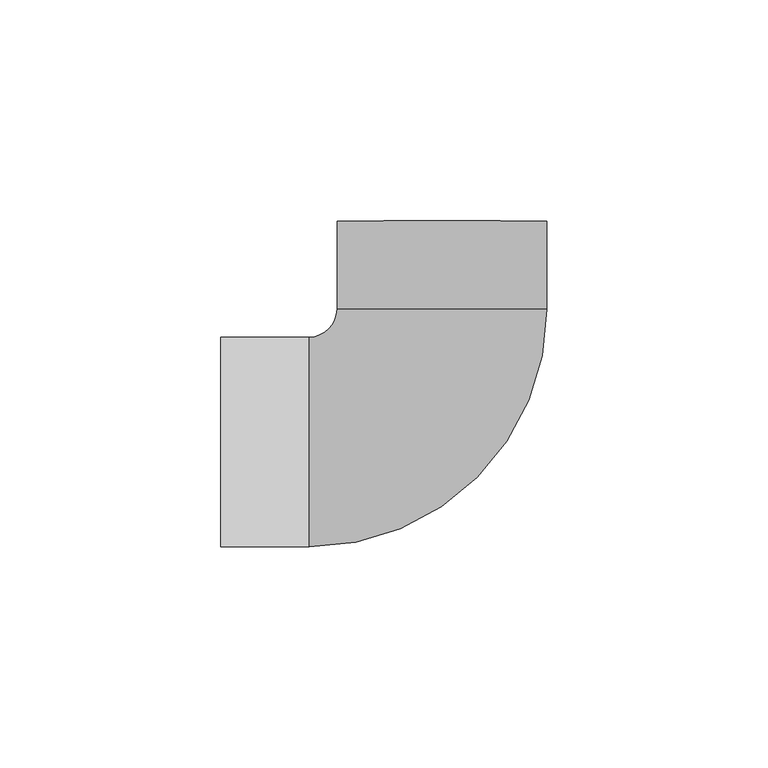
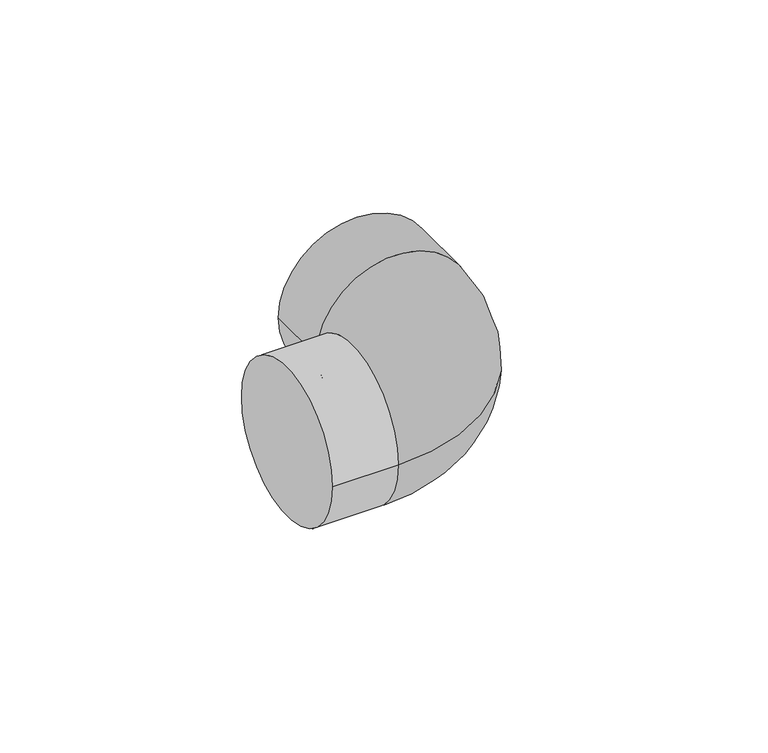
"""IFC4 building model written with IfcOpenShell, lengths in millimetres: pipe fitting geometry, 01101002 : Coudes à 90º."""

from ifc_helpers import new_model, si_unit, point, frame, origin, place, context, project, spatial, circle_curve, ellipse_curve, trimmed, source, transform, mapped, element, save
from ifc_brep_helpers import plane_surface, cylinder_surface, revolved_surface, advanced_brep


def pipe_fitting_551b26ce(model_context):
    return source(origin(), model_context, "Body", "AdvancedBrep", [
        advanced_brep(
        [(-30.0, -23.75, 0.0), (23.75, 30.0, 0.0), (-23.75, 30.0, 0.0), (-30.0, 23.75, 0.0), (-23.75, 50.0, 0.0), (23.75, 50.0, 0.0), (-50.0, 23.75, 0.0), (-50.0, -23.75, 0.0)],
        [
            (0, 1, circle_curve(frame((-30.0, 30.0, 0.0), z_axis=(0.0, 0.0, 1.0), x_axis=(1.0, 0.0, 0.0)), 53.75)),
            (1, 2, circle_curve(frame((0.0, 30.0, 0.0), z_axis=(0.0, -1.0, 0.0), x_axis=(1.0, 0.0, 0.0)), 23.75)),
            (2, 3, circle_curve(frame((-30.0, 30.0, 0.0), z_axis=(0.0, 0.0, -1.0), x_axis=(1.0, 0.0, 0.0)), 6.25)),
            (3, 0, circle_curve(frame((-30.0, 0.0, 0.0), z_axis=(1.0, 0.0, 0.0), x_axis=(0.0, -1.0, 0.0)), 23.75)),
            (2, 1, circle_curve(frame((0.0, 30.0, 0.0), z_axis=(0.0, -1.0, 0.0), x_axis=(1.0, 0.0, 0.0)), 23.75)),
            (0, 3, circle_curve(frame((-30.0, 0.0, 0.0), z_axis=(1.0, 0.0, 0.0), x_axis=(0.0, -1.0, 0.0)), 23.75)),
            (4, 5, circle_curve(frame((0.0, 50.0, 0.0), z_axis=(0.0, 1.0, 0.0), x_axis=(1.0, 0.0, 0.0)), 23.75)),
            (5, 4, circle_curve(frame((0.0, 50.0, 0.0), z_axis=(0.0, 1.0, 0.0), x_axis=(1.0, 0.0, 0.0)), 23.75)),
            (6, 7, circle_curve(frame((-50.0, 0.0, 0.0), z_axis=(-1.0, 0.0, 0.0), x_axis=(0.0, -1.0, 0.0)), 23.75)),
            (7, 6, circle_curve(frame((-50.0, 0.0, 0.0), z_axis=(-1.0, 0.0, 0.0), x_axis=(0.0, -1.0, 0.0)), 23.75)),
            (3, 6),
            (7, 0),
            (4, 2),
            (1, 5),
        ],
        [
            revolved_surface(trimmed(ellipse_curve(frame((0.0, 30.0, 0.0), z_axis=(0.0, 1.0, 0.0), x_axis=(1.0, 0.0, 0.0)), 23.75, 23.75), [point((-23.75, 30.0, 0.0))], [point((23.75, 30.0, 0.0))], True, "CARTESIAN"), (-30.0, 30.0, 0.0), (0.0, 0.0, -1.0)),
            revolved_surface(trimmed(ellipse_curve(frame((0.0, 30.0, 0.0), z_axis=(0.0, 1.0, 0.0), x_axis=(1.0, 0.0, 0.0)), 23.75, 23.75), [point((23.75, 30.0, 0.0))], [point((-23.75, 30.0, 0.0))], True, "CARTESIAN"), (-30.0, 30.0, 0.0), (0.0, 0.0, -1.0)),
            plane_surface(frame((0.0, 50.0, 0.0), z_axis=(0.0, 1.0, 0.0), x_axis=(0.0, 0.0, 1.0))),
            plane_surface(frame((-50.0, 0.0, 0.0), z_axis=(-1.0, 0.0, 0.0), x_axis=(0.0, 0.0, 1.0))),
            cylinder_surface(frame((-30.0, 0.0, 0.0), z_axis=(1.0, 0.0, 0.0), x_axis=(0.0, -1.0, 0.0)), 23.75),
            cylinder_surface(frame((0.0, 50.0, 0.0), z_axis=(0.0, 1.0, 0.0), x_axis=(1.0, 0.0, 0.0)), 23.75),
        ],
        [
            (0, [[1, 2, 3, 4]]),
            (1, [[-3, 5, -1, 6]]),
            (2, [[7, 8]]),
            (3, [[9, 10]]),
            (4, [[-4, 11, -10, 12]]),
            (4, [[-6, -12, -9, -11]]),
            (5, [[-7, 13, -2, 14]]),
            (5, [[-8, -14, -5, -13]]),
        ],
    ),
    ])


if __name__ == "__main__":
    model = new_model("IFC4")
    model_context = context("Model", 3, world=origin())
    ifc_project = project(units=[si_unit("LENGTHUNIT", "METRE", prefix="MILLI")], contexts=[model_context])
    site = spatial("IfcSite", under=ifc_project)
    building = spatial("IfcBuilding", under=site)
    placement = place(None, origin())
    pipe_fitting_shape = pipe_fitting_551b26ce(model_context)
    element("IfcPipeFitting", 1, ObjectType="01101002 : Coudes à 90º", at=placement, inside=building, context=model_context, shape_type="MappedRepresentation", body=[
        mapped(pipe_fitting_shape, transform((0.0, 0.0, 0.0), x_axis=(1.0, 0.0, 0.0), y_axis=(0.0, 1.0, 0.0), z_axis=(0.0, 0.0, 1.0))),
    ])
    save(model, "model.ifc")
